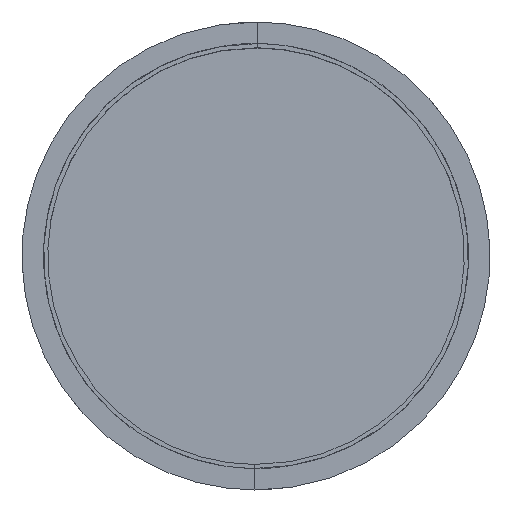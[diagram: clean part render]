
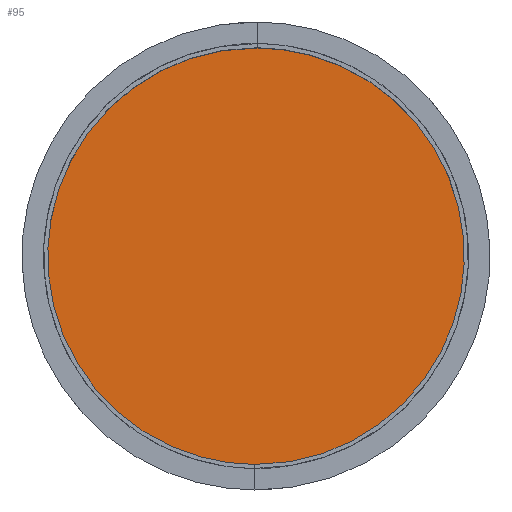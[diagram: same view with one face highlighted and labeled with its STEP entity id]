
A CAD part, front view. The second image highlights one B-rep face of the part: STEP entity #95.
In plain terms, the highlighted planar face has unit normal (0, -1, 0).
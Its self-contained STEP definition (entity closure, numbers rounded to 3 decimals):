
#95=ADVANCED_FACE('',(#163),#778,.T.);
#163=FACE_OUTER_BOUND('',#231,.T.);
#231=EDGE_LOOP('',(#311,#312));
#311=ORIENTED_EDGE('',*,*,#571,.T.);
#312=ORIENTED_EDGE('',*,*,#574,.T.);
#571=EDGE_CURVE('',#702,#704,#817,.T.);
#574=EDGE_CURVE('',#704,#702,#820,.T.);
#702=VERTEX_POINT('',#1112);
#704=VERTEX_POINT('',#1114);
#778=PLANE('',#1008);
#817=(
BOUNDED_CURVE()
B_SPLINE_CURVE(2,(#1122,#1123,#1124,#1125,#1126),.UNSPECIFIED.,.F.,.F.)
B_SPLINE_CURVE_WITH_KNOTS((3,2,3),(0.382,0.573,
0.763),.UNSPECIFIED.)
CURVE()
GEOMETRIC_REPRESENTATION_ITEM()
RATIONAL_B_SPLINE_CURVE((1.,0.707,1.,0.707,1.))
REPRESENTATION_ITEM('')
);
#820=(
BOUNDED_CURVE()
B_SPLINE_CURVE(2,(#1134,#1135,#1136,#1137,#1138),.UNSPECIFIED.,.F.,.F.)
B_SPLINE_CURVE_WITH_KNOTS((3,2,3),(0.763,0.954,
1.145),.UNSPECIFIED.)
CURVE()
GEOMETRIC_REPRESENTATION_ITEM()
RATIONAL_B_SPLINE_CURVE((1.,0.707,1.,0.707,1.))
REPRESENTATION_ITEM('')
);
#1008=AXIS2_PLACEMENT_3D('',#1109,#1046,$);
#1046=DIRECTION('',(0.,-1.,0.));
#1109=CARTESIAN_POINT('',(-74.029,-49.19,-78.485));
#1112=CARTESIAN_POINT('',(4.648,-49.19,62.512));
#1114=CARTESIAN_POINT('',(3.957,-49.19,-62.817));
#1122=CARTESIAN_POINT('',(4.648,-49.19,62.512));
#1123=CARTESIAN_POINT('',(-58.016,-49.19,62.857));
#1124=CARTESIAN_POINT('',(-58.362,-49.19,0.193));
#1125=CARTESIAN_POINT('',(-58.707,-49.19,-62.472));
#1126=CARTESIAN_POINT('',(3.957,-49.19,-62.817));
#1134=CARTESIAN_POINT('',(3.957,-49.19,-62.817));
#1135=CARTESIAN_POINT('',(66.621,-49.19,-63.163));
#1136=CARTESIAN_POINT('',(66.967,-49.19,-0.499));
#1137=CARTESIAN_POINT('',(67.313,-49.19,62.166));
#1138=CARTESIAN_POINT('',(4.648,-49.19,62.512));
